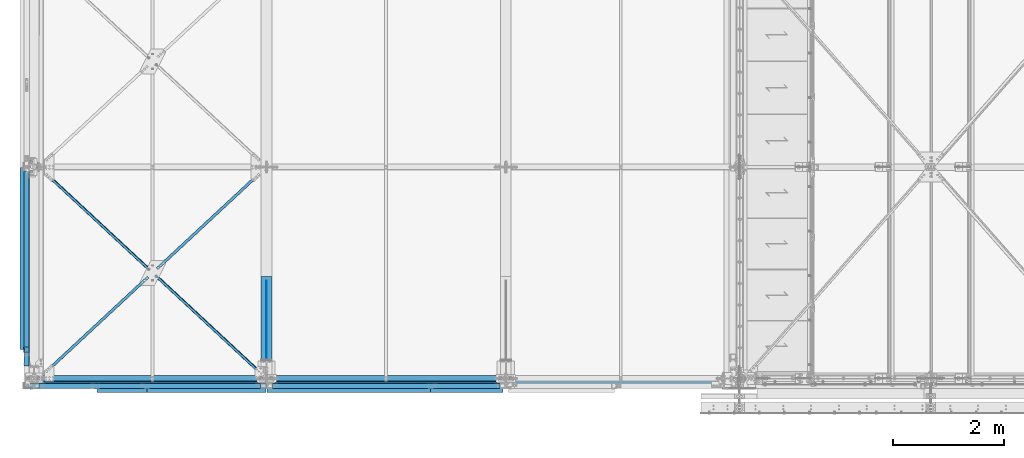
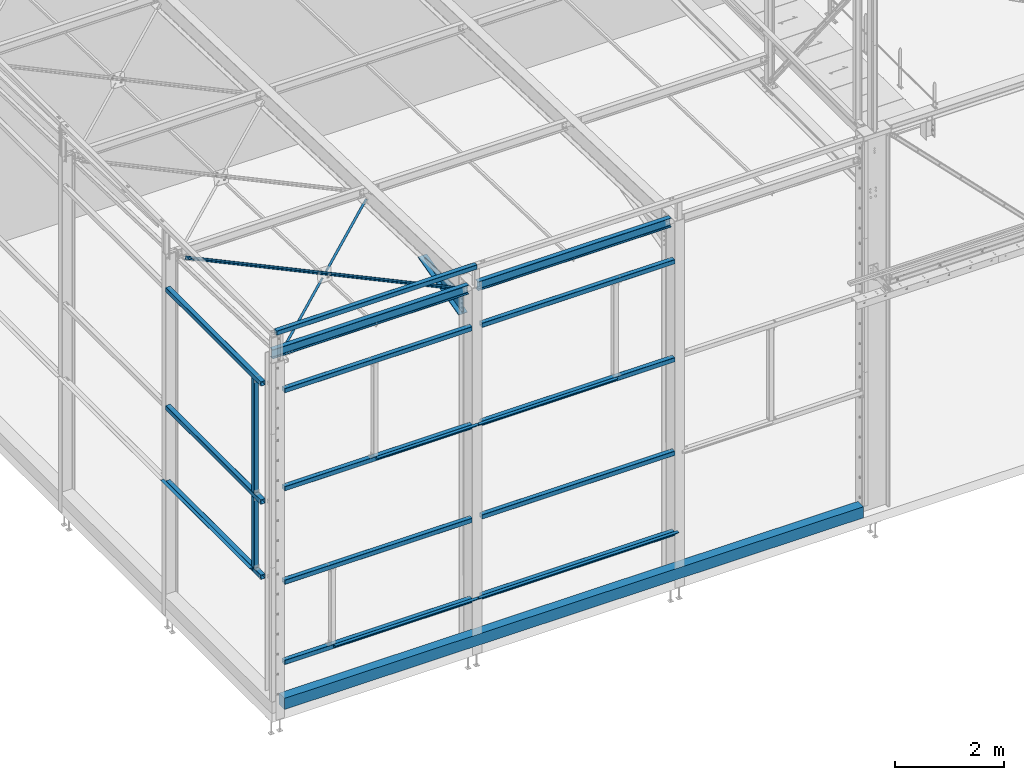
# One storey, part 41 of 362: 27 beams, 21 elements without a shape of their own.
"""IFC2X3 building model written with IfcOpenShell, lengths in millimetres."""

from ifc_helpers import new_model, si_unit, frame, origin_with_axes, origin_2d_with_axis, place, context, subcontext, project, spatial, polyline, rectangle, hollow_rectangle, i_section, l_section, outline, extrude, clip, halfspace, material, type_object, element, aggregate, save


model = new_model("IFC2X3")

# Units and contexts
model_context = context("Model", 3, precision=1e-05, world=origin_with_axes())
body_context = subcontext(model_context, "Body", "Model", "MODEL_VIEW")
ifc_project = project(units=[si_unit("LENGTHUNIT", "METRE", prefix="MILLI"), si_unit("AREAUNIT", "SQUARE_METRE"), si_unit("VOLUMEUNIT", "CUBIC_METRE"), si_unit("MASSUNIT", "GRAM", prefix="KILO"), si_unit("TIMEUNIT", "SECOND"), si_unit("PLANEANGLEUNIT", "RADIAN"), si_unit("SOLIDANGLEUNIT", "STERADIAN"), si_unit("THERMODYNAMICTEMPERATUREUNIT", "DEGREE_CELSIUS"), si_unit("LUMINOUSINTENSITYUNIT", "LUMEN")], contexts=[model_context])

# Site, building, storey
site_placement = place(None, origin_with_axes())
site = spatial("IfcSite", under=ifc_project, at=site_placement, Name="Undefined", CompositionType="ELEMENT")
building_placement = place(site_placement, origin_with_axes())
building = spatial("IfcBuilding", under=site, at=building_placement, Name="Undefined", CompositionType="ELEMENT")
storey_placement = place(building_placement, origin_with_axes())
storey = spatial("IfcBuildingStorey", under=building, at=storey_placement, Name="Undefined", CompositionType="ELEMENT", Elevation=0.0)

# Assembly, beam
assembly_1_placement = place(storey_placement, origin_with_axes())
assembly_1 = element("IfcElementAssembly", 1, at=assembly_1_placement, inside=storey, AssemblyPlace="NOTDEFINED", PredefinedType="NOTDEFINED")
ifc_material_1 = material(Name="Undefined/S235-E24")
beam_type_1 = type_object("IfcBeamType", Name="L50*5", PredefinedType="NOTDEFINED")
beam_1_placement = place(assembly_1_placement, frame((2132.95777562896, 1898.08608063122, 7759.23296372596), z_axis=(0.68083834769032, -0.732072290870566, 0.0230066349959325), x_axis=(0.732433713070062, 0.680502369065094, -0.0213864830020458)))
beam_1 = element("IfcBeam", 2, at=beam_1_placement, type_object=beam_type_1, material=ifc_material_1, Name="STABILITE CVT", ObjectType="L50*5", context=body_context, shape_type="Clipping", body=[
    clip(clip(extrude(l_section(Depth=50.0, Width=50.0, Thickness=5.0, FilletRadius=7.0, EdgeRadius=3.5, at=origin_2d_with_axis()), frame((2792.06114197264, 9.68690801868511e-15, -2.64775642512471e-13), z_axis=(-1.0, 0.0, 0.0), x_axis=(0.0, -1.0, 0.0)), (0.0, 0.0, 1.0), 2736.72), halfspace(frame((2629.60111589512, 24.9999928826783, 24.9999858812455), z_axis=(1.0, 0.0, 0.0), x_axis=(0.0, 0.0, -1.0)), False)), halfspace(frame((106.894615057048, 31.0093179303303, 24.9999999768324), z_axis=(1.0, 0.0, 0.0), x_axis=(0.0, 1.0, 0.0)), True)),
])
aggregate(assembly_1, [beam_1])

assembly_2_placement = place(storey_placement, origin_with_axes())
assembly_2 = element("IfcElementAssembly", 3, at=assembly_2_placement, inside=storey, Name="Steel Assembly", AssemblyPlace="NOTDEFINED", PredefinedType="RIGID_FRAME")
ifc_material_2 = material(Name="STEEL/S235 --------------")
beam_2_placement = place(assembly_2_placement, frame((4182.04254313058, -0.159569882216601, 7874.91957929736), z_axis=(-0.680838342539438, -0.732071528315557, 0.0230310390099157), x_axis=(-0.732433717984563, 0.680502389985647, -0.0213856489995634)))
beam_2 = element("IfcBeam", 4, at=beam_2_placement, type_object=beam_type_1, material=ifc_material_2, Name="STABILITE CVT", ObjectType="L50*5", context=body_context, shape_type="Clipping", body=[
    clip(clip(clip(extrude(l_section(Depth=50.0, Width=50.0, Thickness=5.0, FilletRadius=7.0, EdgeRadius=3.5, at=origin_2d_with_axis()), frame((5584.12307962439, 0.0, -2.75471486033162e-13), z_axis=(-1.0, 0.0, 0.0), x_axis=(0.0, -1.0, 0.0)), (0.0, 0.0, 1.0), 5584.12), halfspace(frame((107.352082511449, 24.9862130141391, -25.0000102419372), z_axis=(-0.999999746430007, -0.000712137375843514, -5.28847746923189e-07), x_axis=(0.0, 0.0, 1.0)), False)), halfspace(frame((3008.74022592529, 25.0624927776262, 2620.77401555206), z_axis=(0.0729183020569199, 2.43126534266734e-05, 0.997337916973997), x_axis=(3.85183070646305e-08, -0.999999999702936, 2.4374732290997e-05)), False)), halfspace(frame((5421.65924635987, -25.0005741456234, -24.9994035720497), z_axis=(1.0, 0.0, 0.0), x_axis=(7.20592651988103e-11, 2.38537934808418e-05, 0.999999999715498)), False)),
])
aggregate(assembly_2, [beam_2])

assembly_3_placement = place(storey_placement, origin_with_axes())
assembly_3 = element("IfcElementAssembly", 5, at=assembly_3_placement, inside=storey, AssemblyPlace="NOTDEFINED", PredefinedType="NOTDEFINED")
beam_3_placement = place(assembly_3_placement, frame((87.9574849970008, -1.91868095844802, 7818.94534983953), z_axis=(0.68083834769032, -0.732072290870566, 0.0230066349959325), x_axis=(0.732433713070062, 0.680502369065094, -0.0213864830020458)))
beam_3 = element("IfcBeam", 6, at=beam_3_placement, type_object=beam_type_1, material=ifc_material_1, Name="STABILITE CVT", ObjectType="L50*5", context=body_context, shape_type="Clipping", body=[
    clip(clip(extrude(l_section(Depth=50.0, Width=50.0, Thickness=5.0, FilletRadius=7.0, EdgeRadius=3.5, at=origin_2d_with_axis()), frame((2736.7203325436, -9.09494701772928e-13, 9.38252055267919e-14), z_axis=(-1.0, 0.0, 0.0), x_axis=(0.0, -1.0, 0.0)), (0.0, 0.0, 1.0), 2736.72), halfspace(frame((162.459973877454, 25.0000221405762, -24.9999999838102), z_axis=(-1.0, 0.0, 0.0), x_axis=(0.0, 0.0, 1.0)), False)), halfspace(frame((2685.16732033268, 31.009205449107, 25.0000000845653), z_axis=(1.0, 0.0, 0.0), x_axis=(0.0, 1.0, 0.0)), False)),
])
aggregate(assembly_3, [beam_3])

assembly_4_placement = place(storey_placement, origin_with_axes())
assembly_4 = element("IfcElementAssembly", 7, at=assembly_4_placement, inside=storey, Name="MONTANT", AssemblyPlace="NOTDEFINED", PredefinedType="NOTDEFINED")
beam_type_2 = type_object("IfcBeamType", Name="TUBE-C-100*100*4", PredefinedType="NOTDEFINED")
beam_4_placement = place(assembly_4_placement, frame((-129.999916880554, 519.993382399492, 4445.00002208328), z_axis=(1.0, 0.0, 0.0), x_axis=(0.0, 0.0, -1.0)))
beam_4 = element("IfcBeam", 8, at=beam_4_placement, type_object=beam_type_2, material=ifc_material_1, Name="MONTANT", ObjectType="TUBE-C-100*100*4", context=body_context, shape_type="SweptSolid", body=[
    extrude(hollow_rectangle(XDim=100.0, YDim=100.0, WallThickness=4.0, InnerFilletRadius=4.0, OuterFilletRadius=8.0, at=origin_2d_with_axis()), frame((1580.00002213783, -3.26736346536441e-22, 0.0), z_axis=(-1.0, 0.0, 0.0), x_axis=(0.0, -1.0, 0.0)), (0.0, 0.0, 1.0), 1580.0),
])
aggregate(assembly_4, [beam_4])

assembly_5_placement = place(storey_placement, origin_with_axes())
assembly_5 = element("IfcElementAssembly", 9, at=assembly_5_placement, inside=storey, Name="LISSE", AssemblyPlace="NOTDEFINED", PredefinedType="NOTDEFINED")
beam_5_placement = place(assembly_5_placement, frame((-130.000001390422, 3724.99999092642, 4500.0), z_axis=(0.0, 0.0, 1.0), x_axis=(0.0, -1.0, 0.0)))
beam_5 = element("IfcBeam", 10, at=beam_5_placement, type_object=beam_type_2, material=ifc_material_1, Name="LISSE CHASSIS", ObjectType="TUBE-C-100*100*4", context=body_context, shape_type="SweptSolid", body=[
    extrude(hollow_rectangle(XDim=100.0, YDim=100.0, WallThickness=4.0, InnerFilletRadius=4.0, OuterFilletRadius=8.0, at=origin_2d_with_axis()), frame((3494.99999900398, 0.0, 0.0), z_axis=(-1.0, 0.0, 0.0), x_axis=(0.0, -1.0, 0.0)), (0.0, 0.0, 1.0), 3495.0),
])
aggregate(assembly_5, [beam_5])

assembly_6_placement = place(storey_placement, origin_with_axes())
assembly_6 = element("IfcElementAssembly", 11, at=assembly_6_placement, inside=storey, Name="LISSE", AssemblyPlace="NOTDEFINED", PredefinedType="NOTDEFINED")
beam_6_placement = place(assembly_6_placement, frame((4285.0000000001, -130.000008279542, 7150.0), z_axis=(0.0, 0.0, -1.0), x_axis=(1.0, 0.0, 0.0)))
beam_6 = element("IfcBeam", 12, at=beam_6_placement, type_object=beam_type_2, material=ifc_material_1, Name="LISSE CHASSIS", ObjectType="TUBE-C-100*100*4", context=body_context, shape_type="SweptSolid", body=[
    extrude(hollow_rectangle(XDim=100.0, YDim=100.0, WallThickness=4.0, InnerFilletRadius=4.0, OuterFilletRadius=8.0, at=origin_2d_with_axis()), frame((4089.9999999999, 0.0, 0.0), z_axis=(-1.0, 0.0, 0.0), x_axis=(0.0, -1.0, 0.0)), (0.0, 0.0, 1.0), 4090.0),
])
aggregate(assembly_6, [beam_6])

assembly_7_placement = place(storey_placement, origin_with_axes())
assembly_7 = element("IfcElementAssembly", 13, at=assembly_7_placement, inside=storey, Name="LISSE", AssemblyPlace="NOTDEFINED", PredefinedType="NOTDEFINED")
beam_7_placement = place(assembly_7_placement, frame((4285.0, -130.000008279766, 4949.99999999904), z_axis=(0.0, 0.0, 1.0), x_axis=(1.0, 0.0, 0.0)))
beam_7 = element("IfcBeam", 14, at=beam_7_placement, type_object=beam_type_2, material=ifc_material_1, Name="LISSE CHASSIS", ObjectType="TUBE-C-100*100*4", context=body_context, shape_type="SweptSolid", body=[
    extrude(hollow_rectangle(XDim=100.0, YDim=100.0, WallThickness=4.0, InnerFilletRadius=4.0, OuterFilletRadius=8.0, at=origin_2d_with_axis()), frame((4089.9999999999, 0.0, 0.0), z_axis=(-1.0, 0.0, 0.0), x_axis=(0.0, -1.0, 0.0)), (0.0, 0.0, 1.0), 4090.0),
])

assembly_8_placement = place(storey_placement, origin_with_axes())
assembly_8 = element("IfcElementAssembly", 15, at=assembly_8_placement, inside=storey, Name="LISSE", AssemblyPlace="NOTDEFINED", PredefinedType="NOTDEFINED")
beam_8_placement = place(assembly_8_placement, frame((4284.99999999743, -130.000008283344, 2850.0), z_axis=(0.0, 0.0, -1.0), x_axis=(1.0, 0.0, 0.0)))
beam_8 = element("IfcBeam", 16, at=beam_8_placement, type_object=beam_type_2, material=ifc_material_1, Name="LISSE CHASSIS", ObjectType="TUBE-C-100*100*4", context=body_context, shape_type="SweptSolid", body=[
    extrude(hollow_rectangle(XDim=100.0, YDim=100.0, WallThickness=4.0, InnerFilletRadius=4.0, OuterFilletRadius=8.0, at=origin_2d_with_axis()), frame((4089.9999999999, 0.0, 0.0), z_axis=(-1.0, 0.0, 0.0), x_axis=(0.0, -1.0, 0.0)), (0.0, 0.0, 1.0), 4090.0),
])
aggregate(assembly_8, [beam_8])

assembly_9_placement = place(storey_placement, origin_with_axes())
assembly_9 = element("IfcElementAssembly", 17, at=assembly_9_placement, inside=storey, Name="LISSE", AssemblyPlace="NOTDEFINED", PredefinedType="NOTDEFINED")
beam_9_placement = place(assembly_9_placement, frame((4285.00000000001, -130.000008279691, 1049.99999999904), z_axis=(0.0, 0.0, 1.0), x_axis=(1.0, 0.0, 0.0)))
beam_9 = element("IfcBeam", 18, at=beam_9_placement, type_object=beam_type_2, material=ifc_material_1, Name="LISSE CHASSIS", ObjectType="TUBE-C-100*100*4", context=body_context, shape_type="SweptSolid", body=[
    extrude(hollow_rectangle(XDim=100.0, YDim=100.0, WallThickness=4.0, InnerFilletRadius=4.0, OuterFilletRadius=8.0, at=origin_2d_with_axis()), frame((4089.9999999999, 0.0, 0.0), z_axis=(-1.0, 0.0, 0.0), x_axis=(0.0, -1.0, 0.0)), (0.0, 0.0, 1.0), 4090.0),
])

assembly_10_placement = place(storey_placement, origin_with_axes())
assembly_10 = element("IfcElementAssembly", 19, at=assembly_10_placement, inside=storey, Name="LISSE", AssemblyPlace="NOTDEFINED", PredefinedType="NOTDEFINED")
beam_10_placement = place(assembly_10_placement, frame((95.0000000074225, -130.000007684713, 7150.0), z_axis=(0.0, 0.0, -1.0), x_axis=(1.0, 0.0, 0.0)))
beam_10 = element("IfcBeam", 20, at=beam_10_placement, type_object=beam_type_2, material=ifc_material_1, Name="LISSE CHASSIS", ObjectType="TUBE-C-100*100*4", context=body_context, shape_type="SweptSolid", body=[
    extrude(hollow_rectangle(XDim=100.0, YDim=100.0, WallThickness=4.0, InnerFilletRadius=4.0, OuterFilletRadius=8.0, at=origin_2d_with_axis()), frame((3980.00000000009, 0.0, 0.0), z_axis=(-1.0, 0.0, 0.0), x_axis=(0.0, -1.0, 0.0)), (0.0, 0.0, 1.0), 3980.0),
])
aggregate(assembly_10, [beam_10])

assembly_11_placement = place(storey_placement, origin_with_axes())
assembly_11 = element("IfcElementAssembly", 21, at=assembly_11_placement, inside=storey, Name="LISSE", AssemblyPlace="NOTDEFINED", PredefinedType="NOTDEFINED")
beam_11_placement = place(assembly_11_placement, frame((95.0000000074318, -130.000007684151, 4949.99999999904), z_axis=(0.0, 0.0, 1.0), x_axis=(1.0, 0.0, 0.0)))
beam_11 = element("IfcBeam", 22, at=beam_11_placement, type_object=beam_type_2, material=ifc_material_1, Name="LISSE CHASSIS", ObjectType="TUBE-C-100*100*4", context=body_context, shape_type="SweptSolid", body=[
    extrude(hollow_rectangle(XDim=100.0, YDim=100.0, WallThickness=4.0, InnerFilletRadius=4.0, OuterFilletRadius=8.0, at=origin_2d_with_axis()), frame((3980.00000000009, 0.0, 0.0), z_axis=(-1.0, 0.0, 0.0), x_axis=(0.0, -1.0, 0.0)), (0.0, 0.0, 1.0), 3980.0),
])

assembly_12_placement = place(storey_placement, origin_with_axes())
assembly_12 = element("IfcElementAssembly", 23, at=assembly_12_placement, inside=storey, Name="LISSE", AssemblyPlace="NOTDEFINED", PredefinedType="NOTDEFINED")
beam_12_placement = place(assembly_12_placement, frame((95.0000000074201, -130.000007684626, 2850.0), z_axis=(0.0, 0.0, -1.0), x_axis=(1.0, 0.0, 0.0)))
beam_12 = element("IfcBeam", 24, at=beam_12_placement, type_object=beam_type_2, material=ifc_material_1, Name="LISSE CHASSIS", ObjectType="TUBE-C-100*100*4", context=body_context, shape_type="SweptSolid", body=[
    extrude(hollow_rectangle(XDim=100.0, YDim=100.0, WallThickness=4.0, InnerFilletRadius=4.0, OuterFilletRadius=8.0, at=origin_2d_with_axis()), frame((3980.00000000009, 0.0, 0.0), z_axis=(-1.0, 0.0, 0.0), x_axis=(0.0, -1.0, 0.0)), (0.0, 0.0, 1.0), 3980.0),
])
aggregate(assembly_12, [beam_12])

assembly_13_placement = place(storey_placement, origin_with_axes())
assembly_13 = element("IfcElementAssembly", 25, at=assembly_13_placement, inside=storey, Name="LISSE", AssemblyPlace="NOTDEFINED", PredefinedType="NOTDEFINED")
beam_13_placement = place(assembly_13_placement, frame((95.0000000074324, -130.000007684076, 1049.99999999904), z_axis=(0.0, 0.0, 1.0), x_axis=(1.0, 0.0, 0.0)))
beam_13 = element("IfcBeam", 26, at=beam_13_placement, type_object=beam_type_2, material=ifc_material_1, Name="LISSE CHASSIS", ObjectType="TUBE-C-100*100*4", context=body_context, shape_type="SweptSolid", body=[
    extrude(hollow_rectangle(XDim=100.0, YDim=100.0, WallThickness=4.0, InnerFilletRadius=4.0, OuterFilletRadius=8.0, at=origin_2d_with_axis()), frame((3980.00000000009, 0.0, 0.0), z_axis=(-1.0, 0.0, 0.0), x_axis=(0.0, -1.0, 0.0)), (0.0, 0.0, 1.0), 3980.0),
])

assembly_14_placement = place(storey_placement, origin_with_axes())
assembly_14 = element("IfcElementAssembly", 27, at=assembly_14_placement, inside=storey, Name="LISSE", AssemblyPlace="NOTDEFINED", PredefinedType="NOTDEFINED")
beam_14_placement = place(assembly_14_placement, frame((-130.00000139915, 3725.0000040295, 7150.00000377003), z_axis=(0.0, 0.0, -1.0), x_axis=(0.0, -1.0, 0.0)))
beam_14 = element("IfcBeam", 28, at=beam_14_placement, type_object=beam_type_2, material=ifc_material_1, Name="LISSE CHASSIS", ObjectType="TUBE-C-100*100*4", context=body_context, shape_type="SweptSolid", body=[
    extrude(hollow_rectangle(XDim=100.0, YDim=100.0, WallThickness=4.0, InnerFilletRadius=4.0, OuterFilletRadius=8.0, at=origin_2d_with_axis()), frame((3494.99999900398, 0.0, 0.0), z_axis=(-1.0, 0.0, 0.0), x_axis=(0.0, -1.0, 0.0)), (0.0, 0.0, 1.0), 3495.0),
])
aggregate(assembly_14, [beam_14])

assembly_15_placement = place(storey_placement, origin_with_axes())
assembly_15 = element("IfcElementAssembly", 29, at=assembly_15_placement, inside=storey, Name="LISSE", AssemblyPlace="NOTDEFINED", PredefinedType="NOTDEFINED")
beam_15_placement = place(assembly_15_placement, frame((-130.000001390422, 3724.99999861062, 2809.99999988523), z_axis=(0.0, 0.0, 1.0), x_axis=(0.0, -1.0, 0.0)))
beam_15 = element("IfcBeam", 30, at=beam_15_placement, type_object=beam_type_2, material=ifc_material_1, Name="LISSE CHASSIS", ObjectType="TUBE-C-100*100*4", context=body_context, shape_type="SweptSolid", body=[
    extrude(hollow_rectangle(XDim=100.0, YDim=100.0, WallThickness=4.0, InnerFilletRadius=4.0, OuterFilletRadius=8.0, at=origin_2d_with_axis()), frame((3494.99999900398, 0.0, 0.0), z_axis=(-1.0, 0.0, 0.0), x_axis=(0.0, -1.0, 0.0)), (0.0, 0.0, 1.0), 3495.0),
])

assembly_16_placement = place(storey_placement, origin_with_axes())
assembly_16 = element("IfcElementAssembly", 31, at=assembly_16_placement, inside=storey, Name="MONTANT", AssemblyPlace="NOTDEFINED", PredefinedType="NOTDEFINED")
beam_16_placement = place(assembly_16_placement, frame((-129.999916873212, 519.993384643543, 7095.00000856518), z_axis=(1.0, 0.0, 0.0), x_axis=(0.0, 0.0, -1.0)))
beam_16 = element("IfcBeam", 32, at=beam_16_placement, type_object=beam_type_2, material=ifc_material_1, Name="MONTANT", ObjectType="TUBE-C-100*100*4", context=body_context, shape_type="SweptSolid", body=[
    extrude(hollow_rectangle(XDim=100.0, YDim=100.0, WallThickness=4.0, InnerFilletRadius=4.0, OuterFilletRadius=8.0, at=origin_2d_with_axis()), frame((2539.99998650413, 0.0, 0.0), z_axis=(-1.0, 0.0, 0.0), x_axis=(0.0, -1.0, 0.0)), (0.0, 0.0, 1.0), 2540.0),
])
aggregate(assembly_16, [beam_16])

assembly_17_placement = place(storey_placement, origin_with_axes())
assembly_17 = element("IfcElementAssembly", 33, at=assembly_17_placement, inside=storey, Name="LISSE", AssemblyPlace="NOTDEFINED", PredefinedType="NOTDEFINED")
beam_17_placement = place(assembly_17_placement, frame((-70.0, -130.0, 8500.0), z_axis=(0.0, 0.0, 1.0), x_axis=(1.0, 0.0, 0.0)))
beam_17 = element("IfcBeam", 34, at=beam_17_placement, type_object=beam_type_2, material=ifc_material_1, Name="LISSE ACROTERE", ObjectType="TUBE-C-100*100*4", context=body_context, shape_type="SweptSolid", body=[
    extrude(hollow_rectangle(XDim=100.0, YDim=100.0, WallThickness=4.0, InnerFilletRadius=4.0, OuterFilletRadius=8.0, at=origin_2d_with_axis()), frame((4245.0, 0.0, 0.0), z_axis=(-1.0, 0.0, 0.0), x_axis=(0.0, -1.0, 0.0)), (0.0, 0.0, 1.0), 4245.0),
])
aggregate(assembly_17, [beam_17])

# Beam
beam_type_3 = type_object("IfcBeamType", Name="L70*7", PredefinedType="NOTDEFINED")
beam_18_placement = place(assembly_7_placement, frame((4190.0, -215.000007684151, 4965.0), z_axis=(0.0, -1.0, 0.0), x_axis=(1.0, 0.0, 0.0)))
beam_18 = element("IfcBeam", 35, at=beam_18_placement, type_object=beam_type_3, material=ifc_material_1, Name="SUPPORT", ObjectType="L70*7", context=body_context, shape_type="SweptSolid", body=[
    extrude(l_section(Depth=70.0, Width=70.0, Thickness=7.0, FilletRadius=9.0, EdgeRadius=4.5, at=origin_2d_with_axis()), frame((2940.0025831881, 0.0, 0.0), z_axis=(-1.0, 0.0, 0.0), x_axis=(0.0, -1.0, 0.0)), (0.0, 0.0, 1.0), 2940.0),
])

aggregate(assembly_7, [beam_18, beam_7])

beam_19_placement = place(assembly_9_placement, frame((4190.0, -215.000007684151, 1065.0), z_axis=(0.0, -1.0, 0.0), x_axis=(1.0, 0.0, 0.0)))
beam_19 = element("IfcBeam", 36, at=beam_19_placement, type_object=beam_type_3, material=ifc_material_1, Name="SUPPORT", ObjectType="L70*7", context=body_context, shape_type="SweptSolid", body=[
    extrude(l_section(Depth=70.0, Width=70.0, Thickness=7.0, FilletRadius=9.0, EdgeRadius=4.5, at=origin_2d_with_axis()), frame((4239.99781571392, 0.0, 0.0), z_axis=(-1.0, 0.0, 0.0), x_axis=(0.0, -1.0, 0.0)), (0.0, 0.0, 1.0), 4240.0),
])

aggregate(assembly_9, [beam_19, beam_9])

beam_20_placement = place(assembly_13_placement, frame((1130.0, -215.000007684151, 1065.0), z_axis=(0.0, -1.0, 0.0), x_axis=(1.0, 0.0, 0.0)))
beam_20 = element("IfcBeam", 37, at=beam_20_placement, type_object=beam_type_3, material=ifc_material_1, Name="SUPPORT", ObjectType="L70*7", context=body_context, shape_type="SweptSolid", body=[
    extrude(l_section(Depth=70.0, Width=70.0, Thickness=7.0, FilletRadius=9.0, EdgeRadius=4.5, at=origin_2d_with_axis()), frame((3040.0, 0.0, 0.0), z_axis=(-1.0, 0.0, 0.0), x_axis=(0.0, -1.0, 0.0)), (0.0, 0.0, 1.0), 3040.0),
])

aggregate(assembly_13, [beam_20, beam_13])

beam_21_placement = place(assembly_11_placement, frame((2029.99476747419, -215.000007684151, 4965.0), z_axis=(0.0, -1.0, 0.0), x_axis=(1.0, 0.0, 0.0)))
beam_21 = element("IfcBeam", 38, at=beam_21_placement, type_object=beam_type_3, material=ifc_material_1, Name="SUPPORT", ObjectType="L70*7", context=body_context, shape_type="SweptSolid", body=[
    extrude(l_section(Depth=70.0, Width=70.0, Thickness=7.0, FilletRadius=9.0, EdgeRadius=4.5, at=origin_2d_with_axis()), frame((2140.00523252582, 0.0, 0.0), z_axis=(-1.0, 0.0, 0.0), x_axis=(0.0, -1.0, 0.0)), (0.0, 0.0, 1.0), 2140.01),
])

aggregate(assembly_11, [beam_21, beam_11])

beam_22_placement = place(assembly_15_placement, frame((-215.000001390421, 3789.99999864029, 2824.99999052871), z_axis=(-1.0, 0.0, 0.0), x_axis=(0.0, -1.0, 0.0)))
beam_22 = element("IfcBeam", 39, at=beam_22_placement, type_object=beam_type_3, material=ifc_material_1, Name="LISSE CHASSIS", ObjectType="L70*7", context=body_context, shape_type="SweptSolid", body=[
    extrude(l_section(Depth=70.0, Width=70.0, Thickness=7.0, FilletRadius=9.0, EdgeRadius=4.5, at=origin_2d_with_axis()), frame((3270.00999900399, 0.0, -4.75664309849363e-29), z_axis=(-1.0, 0.0, 0.0), x_axis=(0.0, -1.0, 0.0)), (0.0, 0.0, 1.0), 3270.01),
])

aggregate(assembly_15, [beam_22, beam_15])

# Assembly, beam
assembly_18_placement = place(storey_placement, origin_with_axes())
assembly_18 = element("IfcElementAssembly", 40, at=assembly_18_placement, inside=storey, Name="TRAVERSE", AssemblyPlace="NOTDEFINED", PredefinedType="NOTDEFINED")
beam_type_4 = type_object("IfcBeamType", Name="PL15*190", PredefinedType="NOTDEFINED")
beam_23_placement = place(assembly_18_placement, frame((4180.0, 1836.15791643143, 7534.87805845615), z_axis=(1.0, 0.0, 0.0), x_axis=(0.0, -0.967446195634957, -0.253076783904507)))
beam_23 = element("IfcBeam", 41, at=beam_23_placement, type_object=beam_type_4, material=ifc_material_1, Name="JARRET", ObjectType="PL15*190", context=body_context, shape_type="SweptSolid", body=[
    extrude(rectangle(XDim=15.0, YDim=190.0, at=origin_2d_with_axis()), frame((1549.7087562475, 0.0, 0.0), z_axis=(-1.0, 0.0, 0.0), x_axis=(0.0, -1.0, 0.0)), (0.0, 0.0, 1.0), 1549.71),
])

assembly_19_placement = place(storey_placement, origin_with_axes())
assembly_19 = element("IfcElementAssembly", 42, at=assembly_19_placement, inside=storey, Name="POUTRE", AssemblyPlace="NOTDEFINED", PredefinedType="REINFORCEMENT_UNIT")
ifc_material_3 = material(Name="CONCRETE/C25/30")
beam_type_5 = type_object("IfcBeamType", Name="250*200", PredefinedType="NOTDEFINED")
beam_24_placement = place(assembly_19_placement, frame((90.0000010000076, -79.9999811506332, 125.000000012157), z_axis=(0.0, 0.0, 1.0), x_axis=(1.0, 0.0, 0.0)))
beam_24 = element("IfcBeam", 43, at=beam_24_placement, type_object=beam_type_5, material=ifc_material_3, Name="POUTRE", ObjectType="250*200", context=body_context, shape_type="SweptSolid", body=[
    extrude(rectangle(XDim=200.0, YDim=250.0, at=origin_2d_with_axis()), frame((12289.9971494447, 0.0, 0.0), z_axis=(-1.0, 0.0, 0.0), x_axis=(0.0, -1.0, 0.0)), (0.0, 0.0, 1.0), 12290.0),
])
aggregate(assembly_19, [beam_24])

# Beam
beam_type_6 = type_object("IfcBeamType", Name="TOLE10*417", PredefinedType="NOTDEFINED")
beam_25_placement = place(assembly_18_placement, frame((4180.0, 335.0, 7589.25004344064), z_axis=(-1.0, 0.0, 0.0), x_axis=(3.14103090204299e-11, 0.999506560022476, -0.0314107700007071)))
beam_25 = element("IfcBeam", 44, at=beam_25_placement, type_object=beam_type_6, material=ifc_material_1, Name="JARRET", ObjectType="TOLE10*417", context=body_context, shape_type="SweptSolid", body=[
    extrude(outline(polyline([(0.942322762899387, 29.9851968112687), (30.0, 0.0), (1419.99999999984, -1.22432538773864e-09), (1423.27844149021, 22.6672111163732), (42.569691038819, 430.594491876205), (12.856783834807, 409.109499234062), (0.942322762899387, 29.9851968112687)])), frame((0.0, 0.0, -5.0), z_axis=(0.0, 0.0, 1.0), x_axis=(1.0, 0.0, 0.0)), (0.0, 0.0, 1.0), 10.0),
])

aggregate(assembly_18, [beam_25, beam_23])

# Assembly, beam
assembly_20_placement = place(storey_placement, origin_with_axes())
assembly_20 = element("IfcElementAssembly", 45, at=assembly_20_placement, inside=storey, AssemblyPlace="NOTDEFINED", PredefinedType="NOTDEFINED")
ifc_material_4 = material(Name="Undefined/S275-E28")
beam_type_7 = type_object("IfcBeamType", Name="IPE200", PredefinedType="NOTDEFINED")
beam_26_placement = place(assembly_20_placement, frame((4280.0, 1.7234924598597e-09, 7949.95062448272), z_axis=(7.58071938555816e-11, 0.0314107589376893, 0.999506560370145), x_axis=(1.0, 0.0, 0.0)))
beam_26 = element("IfcBeam", 46, at=beam_26_placement, type_object=beam_type_7, material=ifc_material_4, Name="PANNE", ObjectType="IPE200", context=body_context, shape_type="SweptSolid", body=[
    extrude(i_section(OverallWidth=100.0, OverallDepth=200.0, WebThickness=5.599999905, FlangeThickness=8.5, FilletRadius=12.0, at=origin_2d_with_axis()), frame((4100.0, 0.0, 0.0), z_axis=(-1.0, 0.0, 0.0), x_axis=(0.0, -1.0, 0.0)), (0.0, 0.0, 1.0), 4100.0),
])
aggregate(assembly_20, [beam_26])

assembly_21_placement = place(storey_placement, origin_with_axes())
assembly_21 = element("IfcElementAssembly", 47, at=assembly_21_placement, inside=storey, Name="Steel Assembly", AssemblyPlace="NOTDEFINED", PredefinedType="RIGID_FRAME")
ifc_material_5 = material(Name="STEEL/S235J0")
beam_27_placement = place(assembly_21_placement, frame((-84.9999999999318, -1.00084832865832e-07, 7949.95062448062), z_axis=(7.58071938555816e-11, 0.0314107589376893, 0.999506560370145), x_axis=(1.0, 0.0, 0.0)))
beam_27 = element("IfcBeam", 48, at=beam_27_placement, type_object=beam_type_7, material=ifc_material_5, Name="PANNE", ObjectType="IPE200", context=body_context, shape_type="SweptSolid", body=[
    extrude(i_section(OverallWidth=100.0, OverallDepth=200.0, WebThickness=5.599999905, FlangeThickness=8.5, FilletRadius=12.0, at=origin_2d_with_axis()), frame((4164.99999999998, 0.0, 0.0), z_axis=(-1.0, 0.0, 0.0), x_axis=(0.0, -1.0, 0.0)), (0.0, 0.0, 1.0), 4165.0),
])
aggregate(assembly_21, [beam_27])

save(model, "model.ifc")
